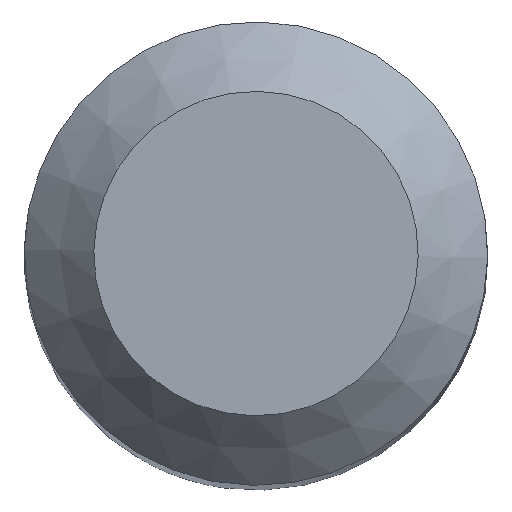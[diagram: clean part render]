
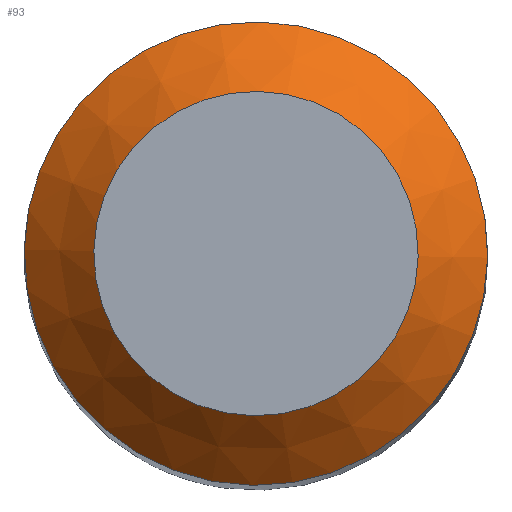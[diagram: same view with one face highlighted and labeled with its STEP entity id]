
A CAD part, top view. The second image highlights one B-rep face of the part: STEP entity #93.
In plain terms, the highlighted conical face has half-angle 45 degrees and reference radius 3 mm.
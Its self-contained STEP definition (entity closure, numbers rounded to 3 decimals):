
#65=FACE_BOUND('',#148,.T.);
#66=FACE_BOUND('',#149,.T.);
#73=CONICAL_SURFACE('',#500,3.,45.);
#93=ADVANCED_FACE('',(#65,#66),#73,.T.);
#148=EDGE_LOOP('',(#298));
#149=EDGE_LOOP('',(#299));
#203=CIRCLE('',#497,3.);
#204=CIRCLE('',#499,2.1);
#298=ORIENTED_EDGE('',*,*,#415,.F.);
#299=ORIENTED_EDGE('',*,*,#412,.T.);
#357=VERTEX_POINT('',#13581);
#358=VERTEX_POINT('',#13628);
#412=EDGE_CURVE('',#357,#357,#203,.T.);
#415=EDGE_CURVE('',#358,#358,#204,.T.);
#497=AXIS2_PLACEMENT_3D('',#13580,#572,#573);
#499=AXIS2_PLACEMENT_3D('',#13627,#576,#577);
#500=AXIS2_PLACEMENT_3D('',#13629,#578,#579);
#572=DIRECTION('',(0.,0.,1.));
#573=DIRECTION('',(-0.157,0.988,0.));
#576=DIRECTION('',(0.,0.,1.));
#577=DIRECTION('',(-0.157,0.988,0.));
#578=DIRECTION('',(0.,0.,-1.));
#579=DIRECTION('',(0.157,-0.988,0.));
#13580=CARTESIAN_POINT('',(0.,0.,-0.9));
#13581=CARTESIAN_POINT('',(-0.471,2.963,-0.9));
#13627=CARTESIAN_POINT('',(0.,0.,0.));
#13628=CARTESIAN_POINT('',(-0.33,2.074,0.));
#13629=CARTESIAN_POINT('',(0.,0.,-0.9));
